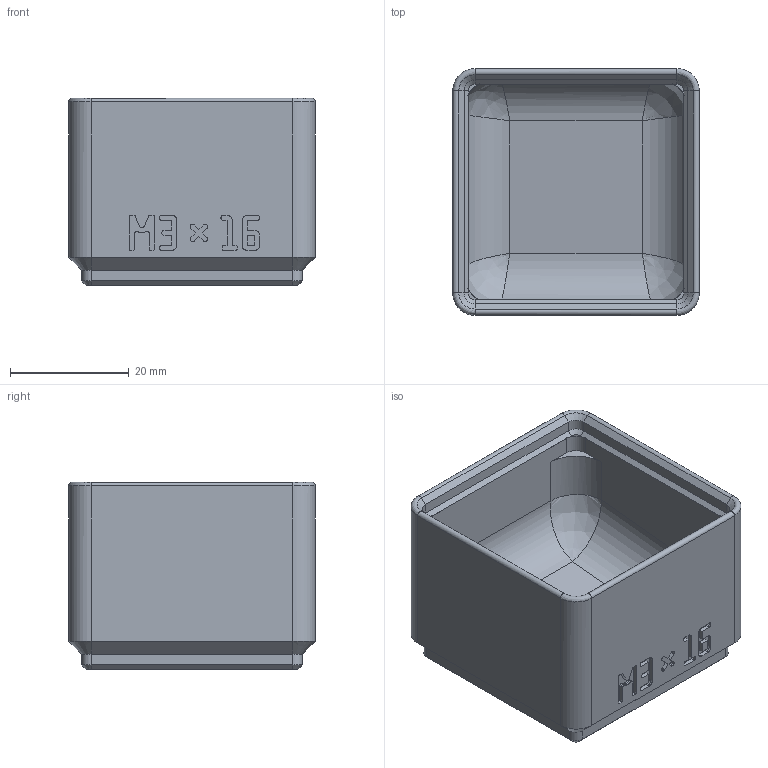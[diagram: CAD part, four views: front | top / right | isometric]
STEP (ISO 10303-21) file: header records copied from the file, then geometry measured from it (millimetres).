
FILE_DESCRIPTION(('Open CASCADE Model'),'2;1');
FILE_NAME('Open CASCADE Shape Model','2026-11-03T17:57:46',('Author'),( 'Open CASCADE'),'Open CASCADE STEP processor 8.0','build123d', 'Unknown');
FILE_SCHEMA(('AUTOMOTIVE_DESIGN { 1 0 10303 214 1 1 1 1 }'));
Length unit declared in the file: millimetre
Products named in the file (1): COMPOUND
Bounding box: 41.5 x 41.5 x 31.55 mm (x, y, z)
Volume: 18949.3 mm3; surface area: 11342.8 mm2
Topology: 1 solids, 1 shells, 635 faces, 1793 edges, 1162 vertices
Faces by surface type: plane 571, cylinder 36, cone 20, bspline 8
Entity records: 44722 total; most frequent: CARTESIAN_POINT 11089, DIRECTION 5475, LINE 4089, VECTOR 4089, ORIENTED_EDGE 3578, PCURVE 3578, DEFINITIONAL_REPRESENTATION 3578, EDGE_CURVE 1789
